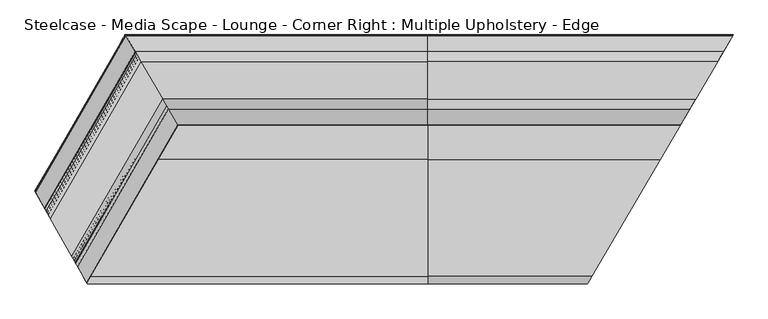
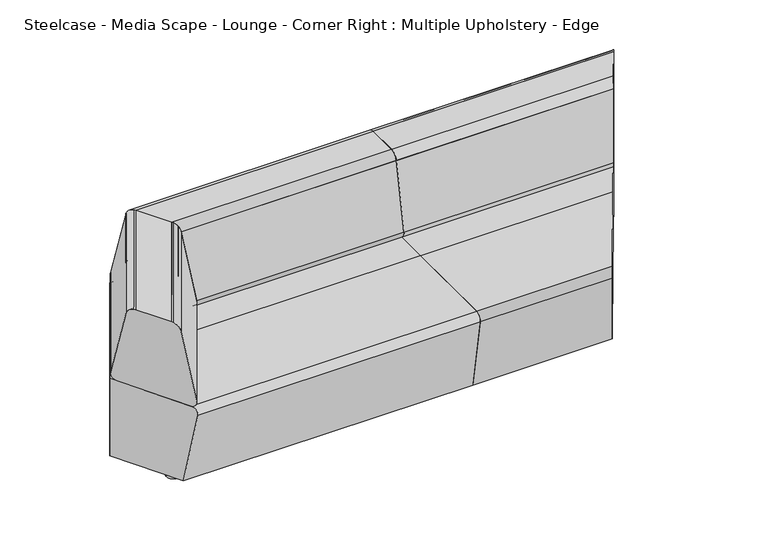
"""IFC4 building model written with IfcOpenShell, lengths in millimetres: furniture geometry, Steelcase - Media Scape - Lounge - Corner Right : Multiple Upholstery - Edge."""

from ifc_helpers import new_model, si_unit, point, frame, origin, place, context, project, spatial, polyline, circle_curve, ellipse_curve, trimmed, source, transform, mapped, element, save
from ifc_brep_helpers import plane_surface, cylinder_surface, revolved_surface, advanced_brep


def steelcase_media_scape_lounge_corner_right_multiple_61df472c(model_context):
    return source(origin(), model_context, "Body", "AdvancedBrep", [
        advanced_brep(
        [(-532.4537919, 416.9525328, 404.4443065), (-532.4537919, 25.4465658, 404.4443065), (-532.4537919, 0.4050887, 374.7917281), (-532.4537919, 51.3770305, 74.6414242), (-532.4537919, 416.9525328, 74.6414242), (-532.4537919, 782.5280351, 74.6414242), (-532.4537919, 833.4999769, 374.7917281), (-532.4537919, 808.4584998, 404.4443065), (-1785.0534928, 416.9525328, 404.4443065), (-1845.5788132, 311.9657445, 404.4443065), (-1684.4068668, 25.4465658, 404.4443065), (-1670.3206069, 0.4050887, 374.7917281), (-1698.9931974, 51.3770305, 74.6414242), (-1845.5788132, 311.9657445, 74.6414242), (-1785.0534928, 416.9525328, 74.6414242), (-1574.2976943, 782.5280351, 74.6414242), (-1544.9121577, 833.4999769, 374.7917281), (-1559.3486735, 808.4584998, 404.4443065)],
        [
            (0, 1),
            (1, 2, circle_curve(frame((-532.4537919, 25.4465658, 379.0443065), z_axis=(1.0, 0.0, 0.0), x_axis=(0.0, -1.0, 0.0)), 25.4)),
            (2, 3),
            (3, 4),
            (4, 5),
            (5, 6),
            (6, 7, circle_curve(frame((-532.4537919, 808.4584998, 379.0443065), z_axis=(1.0, 0.0, 0.0), x_axis=(0.0, 1.0, 0.0)), 25.4)),
            (7, 0),
            (0, 8),
            (8, 9),
            (9, 10),
            (10, 1),
            (10, 11, ellipse_curve(frame((-1684.4068668, 25.4465658, 379.0443065), z_axis=(0.8715691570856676, 0.49027258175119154, 0.0), x_axis=(0.4902725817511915, -0.8715691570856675, 0.0)), 29.1428394, 25.4)),
            (11, 2),
            (11, 12),
            (12, 3),
            (12, 13),
            (13, 14),
            (14, 4),
            (14, 15),
            (15, 5),
            (15, 16),
            (16, 6),
            (16, 17, ellipse_curve(frame((-1559.3486735, 808.4584998, 379.0443065), z_axis=(0.8663426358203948, -0.49945013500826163, 0.0), x_axis=(0.4994501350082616, 0.8663426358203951, 0.0)), 29.318654, 25.4)),
            (17, 7),
            (17, 8),
            (13, 9),
        ],
        [
            plane_surface(frame((-532.4537919, -57.5722485, 404.4443065), z_axis=(1.0, 0.0, 0.0), x_axis=(0.0, -1.0, 0.0))),
            plane_surface(frame((-532.4537919, 416.9525328, 404.4443065), z_axis=(0.0, 0.0, 1.0), x_axis=(-1.0, 0.0, 0.0))),
            cylinder_surface(frame((-1864.4893496, 25.4465658, 379.0443065), z_axis=(1.0, 0.0, 0.0), x_axis=(0.0, -1.0, 0.0)), 25.4),
            plane_surface(frame((-532.4537919, 0.4050887, 374.7917281), z_axis=(0.0, -0.9858849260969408, -0.16742434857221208), x_axis=(-1.0, 0.0, 0.0))),
            plane_surface(frame((-532.4537919, 51.3770305, 74.6414242), z_axis=(0.0, 0.0, -1.0), x_axis=(-1.0, 0.0, 0.0))),
            plane_surface(frame((-532.4537919, 416.9525328, 74.6414242), z_axis=(0.0, 0.0, -1.0), x_axis=(-1.0, 0.0, 0.0))),
            plane_surface(frame((-532.4537919, 782.5280351, 74.6414242), z_axis=(0.0, 0.9858849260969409, -0.1674243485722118), x_axis=(-1.0, 0.0, 0.0))),
            cylinder_surface(frame((-1864.4893496, 808.4584998, 379.0443065), z_axis=(1.0, 0.0, 0.0), x_axis=(0.0, 1.0, 0.0)), 25.4),
            plane_surface(frame((-532.4537919, 808.4584998, 404.4443065), z_axis=(0.0, 0.0, 1.0), x_axis=(-1.0, 0.0, 0.0))),
            plane_surface(frame((-1845.5788132, 311.9657445, 1254.4761924), z_axis=(-0.8663426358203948, 0.49945013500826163, 0.0), x_axis=(0.0, 0.0, -1.0))),
            plane_surface(frame((-1651.6684478, -32.7532953, 1254.4761924), z_axis=(-0.8715691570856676, -0.49027258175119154, 0.0), x_axis=(0.0, 0.0, -1.0))),
        ],
        [
            (0, [[1, 2, 3, 4, 5, 6, 7, 8]]),
            (1, [[-1, 9, 10, 11, 12]]),
            (2, [[-2, -12, 13, 14]]),
            (3, [[-3, -14, 15, 16]]),
            (4, [[-4, -16, 17, 18, 19]]),
            (5, [[-5, -19, 20, 21]]),
            (6, [[-6, -21, 22, 23]]),
            (7, [[-7, -23, 24, 25]]),
            (8, [[-8, -25, 26, -9]]),
            (9, [[27, -10, -26, -24, -22, -20, -18]]),
            (10, [[-27, -17, -15, -13, -11]]),
        ],
    ),
        advanced_brep(
        [(-1491.2979737, 744.6053565, 735.1171206), (-1510.6041375, 778.0459957, 707.6422134), (-1812.8470169, 253.7776565, 707.6422134), (-1793.7915094, 219.9022306, 735.1171206), (-1541.7100977, 831.9253268, 434.7626426), (-1843.5491212, 308.3575131, 434.7626426), (-1527.3179704, 806.9964005, 404.4443065), (-1829.3438503, 283.1044672, 404.4443065), (-1382.7665293, 556.6156083, 404.4443065), (-1686.6691539, 29.468287, 404.4443065), (-1368.3744021, 531.686682, 434.7626426), (-1672.4638829, 4.2152411, 434.7626426), (-1399.4803623, 585.5660131, 707.6422134), (-1703.1659873, 58.7950977, 707.6422134), (-1418.7865261, 619.0066524, 735.1171206), (-1722.2214947, 92.6705237, 735.1171206)],
        [
            (0, 1, ellipse_curve(frame((-1491.2979737, 744.6053565, 701.0445646), z_axis=(-0.8660343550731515, -0.499984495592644, 0.0), x_axis=(0.4999844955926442, -0.8660343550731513, 0.0)), 39.3584391, 34.0725559)),
            (1, 2),
            (2, 3, ellipse_curve(frame((-1793.7915094, 219.9022306, 701.0445646), z_axis=(0.8715691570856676, 0.49027258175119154, 0.0), x_axis=(0.4902725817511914, -0.8715691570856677, 0.0)), 39.6169766, 34.0725559)),
            (3, 0),
            (1, 4),
            (4, 5),
            (5, 2),
            (4, 6, ellipse_curve(frame((-1527.3179704, 806.9964005, 429.8443065), z_axis=(-0.8660343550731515, -0.499984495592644, 0.0), x_axis=(0.4999844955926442, -0.8660343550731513, 0.0)), 29.3404568, 25.4)),
            (6, 7),
            (7, 5, ellipse_curve(frame((-1829.3438503, 283.1044672, 429.8443065), z_axis=(0.8715691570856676, 0.49027258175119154, 0.0), x_axis=(0.4902725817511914, -0.8715691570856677, 0.0)), 29.5331882, 25.4)),
            (6, 8),
            (8, 9),
            (9, 7),
            (8, 10, ellipse_curve(frame((-1382.7665293, 556.6156083, 429.8443065), z_axis=(-0.8660343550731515, -0.499984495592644, 0.0), x_axis=(0.49998449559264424, -0.8660343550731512, 0.0)), 29.3404568, 25.4)),
            (10, 11),
            (11, 9, ellipse_curve(frame((-1686.6691539, 29.468287, 429.8443065), z_axis=(0.8715691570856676, 0.49027258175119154, 0.0), x_axis=(0.4902725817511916, -0.8715691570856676, 0.0)), 29.5331882, 25.4)),
            (10, 12),
            (12, 13),
            (13, 11),
            (12, 14, ellipse_curve(frame((-1418.7865261, 619.0066524, 701.0445646), z_axis=(-0.8660343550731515, -0.499984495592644, 0.0), x_axis=(0.49998449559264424, -0.8660343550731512, 0.0)), 39.3584391, 34.0725559)),
            (14, 15),
            (15, 13, ellipse_curve(frame((-1722.2214947, 92.6705237, 701.0445646), z_axis=(0.8715691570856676, 0.49027258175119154, 0.0), x_axis=(0.4902725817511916, -0.8715691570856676, 0.0)), 39.6169766, 34.0725559)),
            (14, 0),
            (3, 15),
        ],
        [
            cylinder_surface(frame((-1436.6538007, 839.3907486, 701.0445646), z_axis=(-0.49945013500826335, -0.8663426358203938, 0.0), x_axis=(-0.8663426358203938, 0.49945013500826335, 0.0)), 34.0725559),
            plane_surface(frame((-1896.9387657, 107.9127099, 707.6422134), z_axis=(-0.8499458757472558, 0.4899973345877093, 0.193635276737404), x_axis=(0.4994501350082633, 0.8663426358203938, 0.0))),
            cylinder_surface(frame((-1490.6848829, 870.5398923, 429.8443065), z_axis=(-0.49945013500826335, -0.8663426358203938, 0.0), x_axis=(-0.8663426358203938, 0.49945013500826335, 0.0)), 25.4),
            plane_surface(frame((-1922.0100195, 122.366392, 404.4443065), z_axis=(0.0, 0.0, -1.0), x_axis=(0.4994501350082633, 0.8663426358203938, 0.0))),
            cylinder_surface(frame((-1273.8533586, 745.5356162, 429.8443065), z_axis=(-0.4994501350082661, -0.8663426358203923, 0.0), x_axis=(0.8663426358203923, -0.4994501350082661, 0.0)), 25.4),
            plane_surface(frame((-1683.5898699, -15.0838164, 434.7626426), z_axis=(0.849945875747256, -0.4899973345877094, 0.19363527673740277), x_axis=(0.4994501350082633, 0.8663426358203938, 0.0))),
            cylinder_surface(frame((-1327.8844408, 776.6847599, 701.0445646), z_axis=(-0.4994501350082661, -0.8663426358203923, 0.0), x_axis=(0.8663426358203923, -0.4994501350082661, 0.0)), 34.0725559),
            plane_surface(frame((-1759.2095774, 28.5112596, 735.1171206), z_axis=(0.0, 0.0, 1.0), x_axis=(0.4994501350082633, 0.8663426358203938, 0.0))),
            plane_surface(frame((-1578.9048197, 896.3511388, 783.4745435), z_axis=(0.8660343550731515, 0.499984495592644, 0.0), x_axis=(0.0, 0.0, -1.0))),
            plane_surface(frame((-1651.6684478, -32.7532953, 1254.4761924), z_axis=(-0.8715691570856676, -0.49027258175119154, 0.0), x_axis=(0.0, 0.0, -1.0))),
        ],
        [
            (0, [[1, 2, 3, 4]]),
            (1, [[5, 6, 7, -2]]),
            (2, [[8, 9, 10, -6]]),
            (3, [[11, 12, 13, -9]]),
            (4, [[14, 15, 16, -12]]),
            (5, [[17, 18, 19, -15]]),
            (6, [[20, 21, 22, -18]]),
            (7, [[23, -4, 24, -21]]),
            (8, [[-1, -23, -20, -17, -14, -11, -8, -5]]),
            (9, [[-3, -7, -10, -13, -16, -19, -22, -24]]),
        ],
    ),
        advanced_brep(
        [(-1491.4185476, 744.8142053, 735.3711206), (-1510.7247114, 778.2548445, 707.8962134), (-1812.9660253, 253.9892207, 707.8962134), (-1793.9105179, 220.1137947, 735.3711206), (-1399.3597883, 585.3571644, 707.8962134), (-1703.0469788, 58.5835335, 707.8962134), (-1418.6659522, 618.7978036, 735.3711206), (-1722.1024862, 92.4589595, 735.3711206)],
        [
            (0, 1, ellipse_curve(frame((-1491.4185476, 744.8142053, 701.2985646), z_axis=(-0.8660343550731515, -0.499984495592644, 0.0), x_axis=(0.4999844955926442, -0.8660343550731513, 0.0)), 39.3584391, 34.0725559)),
            (1, 2),
            (2, 3, ellipse_curve(frame((-1793.9105179, 220.1137947, 701.2985646), z_axis=(0.8715691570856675, 0.4902725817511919, 0.0), x_axis=(0.4902725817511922, -0.8715691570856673, 0.0)), 39.6169766, 34.0725559)),
            (3, 0),
            (1, 4),
            (4, 5),
            (5, 2),
            (4, 6, ellipse_curve(frame((-1418.6659522, 618.7978036, 701.2985646), z_axis=(-0.8660343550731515, -0.499984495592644, 0.0), x_axis=(0.49998449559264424, -0.8660343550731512, 0.0)), 39.3584391, 34.0725559)),
            (6, 7),
            (7, 5, ellipse_curve(frame((-1722.1024862, 92.4589595, 701.2985646), z_axis=(0.8715691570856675, 0.4902725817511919, 0.0), x_axis=(0.49027258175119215, -0.8715691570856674, 0.0)), 39.6169766, 34.0725559)),
            (6, 0),
            (3, 7),
        ],
        [
            cylinder_surface(frame((-1436.8346652, 839.4950177, 701.2985646), z_axis=(-0.49945013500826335, -0.8663426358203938, 0.0), x_axis=(-0.8663426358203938, 0.49945013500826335, 0.0)), 34.0725559),
            plane_surface(frame((-1897.1196302, 108.016979, 707.8962134), z_axis=(0.0, 0.0, -1.0000000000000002), x_axis=(0.4994501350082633, 0.866342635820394, 0.0))),
            cylinder_surface(frame((-1327.7035763, 776.5804908, 701.2985646), z_axis=(-0.4994501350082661, -0.8663426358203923, 0.0), x_axis=(0.8663426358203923, -0.4994501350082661, 0.0)), 34.0725559),
            plane_surface(frame((-1759.0287129, 28.4069905, 735.3711206), z_axis=(0.0, 0.0, 1.0000000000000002), x_axis=(0.4994501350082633, 0.866342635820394, 0.0))),
            plane_surface(frame((-1578.9048197, 896.3511388, 783.4745435), z_axis=(0.8660343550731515, 0.499984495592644, 0.0), x_axis=(0.0, 0.0, -1.0))),
            plane_surface(frame((-1651.6684478, -32.7532953, 1757.5529843), z_axis=(-0.8715691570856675, -0.4902725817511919, 0.0), x_axis=(0.0, 0.0, -1.0))),
        ],
        [
            (0, [[1, 2, 3, 4]]),
            (1, [[5, 6, 7, -2]]),
            (2, [[8, 9, 10, -6]]),
            (3, [[11, -4, 12, -9]]),
            (4, [[-1, -11, -8, -5]]),
            (5, [[-3, -7, -10, -12]]),
        ],
    ),
        advanced_brep(
        [(-532.4537919, 744.8271599, 735.3711206), (-532.4537919, 778.2548445, 707.8962134), (-532.4537919, 585.4318912, 707.8962134), (-532.4537919, 618.8595758, 735.3711206), (361.4891213, 618.8595758, 735.3711206), (435.0694828, 744.8271599, 735.3711206), (341.9632954, 585.4318912, 707.8962134), (454.5953087, 778.2548445, 707.8962134)],
        [
            (0, 1, circle_curve(frame((-532.4537919, 744.8271599, 701.2985646), z_axis=(-1.0, 0.0, 0.0), x_axis=(0.0, 1.0, 0.0)), 34.0725559)),
            (1, 2),
            (2, 3, circle_curve(frame((-532.4537919, 618.8595758, 701.2985646), z_axis=(-1.0, 0.0, 0.0), x_axis=(0.0, -1.0, 0.0)), 34.0725559)),
            (3, 0),
            (3, 4),
            (4, 5),
            (5, 0),
            (2, 6),
            (6, 4, ellipse_curve(frame((361.4891213, 618.8595758, 701.2985646), z_axis=(-0.8634825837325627, 0.5043786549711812, 0.0), x_axis=(0.5043786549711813, 0.8634825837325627, 0.0)), 39.4594594, 34.0725559)),
            (1, 7),
            (7, 6),
            (5, 7, ellipse_curve(frame((435.0694828, 744.8271599, 701.2985646), z_axis=(-0.8634825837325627, 0.5043786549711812, 0.0), x_axis=(0.5043786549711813, 0.8634825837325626, 0.0)), 39.4594594, 34.0725559)),
        ],
        [
            plane_surface(frame((-532.4537919, 567.2050656, 735.3711206), z_axis=(-1.0, 0.0, 0.0), x_axis=(0.0, 1.0, 0.0))),
            plane_surface(frame((494.2685786, 744.8271599, 735.3711206), z_axis=(0.0, 0.0, 1.0), x_axis=(-1.0, 0.0, 0.0))),
            cylinder_surface(frame((-532.4537919, 618.8595758, 701.2985646), z_axis=(1.0, 0.0, 0.0), x_axis=(0.0, -1.0, 0.0)), 34.0725559),
            plane_surface(frame((494.2685786, 585.4318912, 707.8962134), z_axis=(0.0, 0.0, -1.0), x_axis=(-1.0, 0.0, 0.0))),
            cylinder_surface(frame((-532.4537919, 744.8271599, 701.2985646), z_axis=(1.0, 0.0, 0.0), x_axis=(0.0, 1.0, 0.0)), 34.0725559),
            plane_surface(frame((501.8901158, 859.2222721, 1408.6655234), z_axis=(0.8634825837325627, -0.5043786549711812, 0.0), x_axis=(0.0, 0.0, -1.0))),
        ],
        [
            (0, [[1, 2, 3, 4]]),
            (1, [[-4, 5, 6, 7]]),
            (2, [[-3, 8, 9, -5]]),
            (3, [[-2, 10, 11, -8]]),
            (4, [[-1, -7, 12, -10]]),
            (5, [[-6, -9, -11, -12]]),
        ],
    ),
        advanced_brep(
        [(-532.4537919, 744.618392, 735.1171206), (-532.4537919, 778.0460766, 707.6422134), (-532.4537919, 831.9045354, 434.7626426), (-532.4537919, 806.9852663, 404.4443065), (-532.4537919, 556.7014693, 404.4443065), (-532.4537919, 531.7822003, 434.7626426), (-532.4537919, 585.640659, 707.6422134), (-532.4537919, 619.0683436, 735.1171206), (361.6110671, 619.0683436, 735.1171206), (434.947537, 744.618392, 735.1171206), (342.0852412, 585.640659, 707.6422134), (310.6253629, 531.7822003, 434.7626426), (325.1812412, 556.7014693, 404.4443065), (471.3773629, 806.9852663, 404.4443065), (485.9332412, 831.9045354, 434.7626426), (454.4733629, 778.0460766, 707.6422134)],
        [
            (0, 1, circle_curve(frame((-532.4537919, 744.618392, 701.0445646), z_axis=(-1.0, 0.0, 0.0), x_axis=(0.0, 1.0, 0.0)), 34.0725559)),
            (1, 2),
            (2, 3, circle_curve(frame((-532.4537919, 806.9852663, 429.8443065), z_axis=(-1.0, 0.0, 0.0), x_axis=(0.0, 1.0, 0.0)), 25.4)),
            (3, 4),
            (4, 5, circle_curve(frame((-532.4537919, 556.7014693, 429.8443065), z_axis=(-1.0, 0.0, 0.0), x_axis=(0.0, -1.0, 0.0)), 25.4)),
            (5, 6),
            (6, 7, circle_curve(frame((-532.4537919, 619.0683436, 701.0445646), z_axis=(-1.0, 0.0, 0.0), x_axis=(0.0, -1.0, 0.0)), 34.0725559)),
            (7, 0),
            (7, 8),
            (8, 9),
            (9, 0),
            (6, 10),
            (10, 8, ellipse_curve(frame((361.6110671, 619.0683436, 701.0445646), z_axis=(-0.8634825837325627, 0.5043786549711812, 0.0), x_axis=(0.5043786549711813, 0.8634825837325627, 0.0)), 39.4594594, 34.0725559)),
            (5, 11),
            (11, 10),
            (4, 12),
            (12, 11, ellipse_curve(frame((325.1812412, 556.7014693, 429.8443065), z_axis=(-0.8634825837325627, 0.5043786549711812, 0.0), x_axis=(0.5043786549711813, 0.8634825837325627, 0.0)), 29.4157641, 25.4)),
            (3, 13),
            (13, 12),
            (2, 14),
            (14, 13, ellipse_curve(frame((471.3773629, 806.9852663, 429.8443065), z_axis=(-0.8634825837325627, 0.5043786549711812, 0.0), x_axis=(0.5043786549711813, 0.8634825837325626, 0.0)), 29.4157641, 25.4)),
            (1, 15),
            (15, 14),
            (9, 15, ellipse_curve(frame((434.947537, 744.618392, 701.0445646), z_axis=(-0.8634825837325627, 0.5043786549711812, 0.0), x_axis=(0.5043786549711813, 0.8634825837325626, 0.0)), 39.4594594, 34.0725559)),
        ],
        [
            plane_surface(frame((-532.4537919, 567.2050656, 735.1171206), z_axis=(-1.0, 0.0, 0.0), x_axis=(0.0, 1.0, 0.0))),
            plane_surface(frame((494.2685786, 744.618392, 735.1171206), z_axis=(0.0, 0.0, 1.0), x_axis=(-1.0, 0.0, 0.0))),
            cylinder_surface(frame((-532.4537919, 619.0683436, 701.0445646), z_axis=(1.0, 0.0, 0.0), x_axis=(0.0, -1.0, 0.0)), 34.0725559),
            plane_surface(frame((494.2685786, 585.640659, 707.6422134), z_axis=(0.0, -0.9810735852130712, 0.19363527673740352), x_axis=(-1.0, 0.0, 0.0))),
            cylinder_surface(frame((-532.4537919, 556.7014693, 429.8443065), z_axis=(1.0, 0.0, 0.0), x_axis=(0.0, -1.0, 0.0)), 25.4),
            plane_surface(frame((494.2685786, 556.7014693, 404.4443065), z_axis=(0.0, 0.0, -1.0), x_axis=(-1.0, 0.0, 0.0))),
            cylinder_surface(frame((-532.4537919, 806.9852663, 429.8443065), z_axis=(1.0, 0.0, 0.0), x_axis=(0.0, 1.0, 0.0)), 25.4),
            plane_surface(frame((494.2685786, 831.9045354, 434.7626426), z_axis=(0.0, 0.9810735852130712, 0.19363527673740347), x_axis=(-1.0, 0.0, 0.0))),
            cylinder_surface(frame((-532.4537919, 744.618392, 701.0445646), z_axis=(1.0, 0.0, 0.0), x_axis=(0.0, 1.0, 0.0)), 34.0725559),
            plane_surface(frame((501.8901158, 859.2222721, 775.7777302), z_axis=(0.8634825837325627, -0.5043786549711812, 0.0), x_axis=(0.0, 0.0, -1.0))),
        ],
        [
            (0, [[1, 2, 3, 4, 5, 6, 7, 8]]),
            (1, [[-8, 9, 10, 11]]),
            (2, [[-7, 12, 13, -9]]),
            (3, [[-6, 14, 15, -12]]),
            (4, [[-5, 16, 17, -14]]),
            (5, [[-4, 18, 19, -16]]),
            (6, [[-3, 20, 21, -18]]),
            (7, [[-2, 22, 23, -20]]),
            (8, [[-1, -11, 24, -22]]),
            (9, [[-10, -13, -15, -17, -19, -21, -23, -24]]),
        ],
    ),
        advanced_brep(
        [(-532.4537919, 416.9525328, 404.4443065), (-532.4537919, 808.4584998, 404.4443065), (-532.4537919, 833.4999769, 374.7917281), (-532.4537919, 782.5280351, 74.6414242), (-532.4537919, 416.9525328, 74.6414242), (-532.4537919, 51.3770305, 74.6414242), (-532.4537919, 0.4050887, 374.7917281), (-532.4537919, 25.4465658, 404.4443065), (243.5508969, 416.9525328, 404.4443065), (472.2379101, 808.4584998, 404.4443065), (486.8651727, 833.4999769, 374.7917281), (457.0913708, 782.5280351, 74.6414242), (243.5508969, 416.9525328, 74.6414242), (30.0104229, 51.3770305, 74.6414242), (0.236621, 0.4050887, 374.7917281), (14.8638836, 25.4465658, 404.4443065)],
        [
            (0, 1),
            (1, 2, circle_curve(frame((-532.4537919, 808.4584998, 379.0443065), z_axis=(-1.0, 0.0, 0.0), x_axis=(0.0, 1.0, 0.0)), 25.4)),
            (2, 3),
            (3, 4),
            (4, 5),
            (5, 6),
            (6, 7, circle_curve(frame((-532.4537919, 25.4465658, 379.0443065), z_axis=(-1.0, 0.0, 0.0), x_axis=(0.0, -1.0, 0.0)), 25.4)),
            (7, 0),
            (0, 8),
            (8, 9),
            (9, 1),
            (9, 10, ellipse_curve(frame((472.2379101, 808.4584998, 379.0443065), z_axis=(-0.8634825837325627, 0.5043786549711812, 0.0), x_axis=(-0.5043786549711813, -0.8634825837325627, 0.0)), 29.4157641, 25.4)),
            (10, 2),
            (10, 11),
            (11, 3),
            (11, 12),
            (12, 4),
            (12, 13),
            (13, 5),
            (13, 14),
            (14, 6),
            (14, 15, ellipse_curve(frame((14.8638836, 25.4465658, 379.0443065), z_axis=(-0.8634825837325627, 0.5043786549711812, 0.0), x_axis=(-0.5043786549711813, -0.8634825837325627, 0.0)), 29.4157641, 25.4)),
            (15, 7),
            (15, 8),
        ],
        [
            plane_surface(frame((-532.4537919, 891.4773142, 404.4443065), z_axis=(-1.0, 0.0, 0.0), x_axis=(0.0, 1.0, 0.0))),
            plane_surface(frame((-532.4537919, 416.9525328, 404.4443065), z_axis=(0.0, 0.0, 1.0), x_axis=(1.0, 0.0, 0.0))),
            cylinder_surface(frame((497.7585178, 808.4584998, 379.0443065), z_axis=(-1.0, 0.0, 0.0), x_axis=(0.0, 1.0, 0.0)), 25.4),
            plane_surface(frame((-532.4537919, 833.4999769, 374.7917281), z_axis=(0.0, 0.9858849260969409, -0.1674243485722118), x_axis=(1.0, 0.0, 0.0))),
            plane_surface(frame((-532.4537919, 782.5280351, 74.6414242), z_axis=(0.0, 0.0, -1.0), x_axis=(1.0, 0.0, 0.0))),
            plane_surface(frame((-532.4537919, 416.9525328, 74.6414242), z_axis=(0.0, 0.0, -1.0), x_axis=(1.0, 0.0, 0.0))),
            plane_surface(frame((-532.4537919, 51.3770305, 74.6414242), z_axis=(0.0, -0.9858849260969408, -0.16742434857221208), x_axis=(1.0, 0.0, 0.0))),
            cylinder_surface(frame((497.7585178, 25.4465658, 379.0443065), z_axis=(-1.0, 0.0, 0.0), x_axis=(0.0, -1.0, 0.0)), 25.4),
            plane_surface(frame((-532.4537919, 25.4465658, 404.4443065), z_axis=(0.0, 0.0, 1.0), x_axis=(1.0, 0.0, 0.0))),
            plane_surface(frame((501.8901158, 859.2222721, 775.7777302), z_axis=(0.8634825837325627, -0.5043786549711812, 0.0), x_axis=(0.0, 0.0, -1.0))),
        ],
        [
            (0, [[1, 2, 3, 4, 5, 6, 7, 8]]),
            (1, [[-1, 9, 10, 11]]),
            (2, [[-2, -11, 12, 13]]),
            (3, [[-3, -13, 14, 15]]),
            (4, [[-4, -15, 16, 17]]),
            (5, [[-5, -17, 18, 19]]),
            (6, [[-6, -19, 20, 21]]),
            (7, [[-7, -21, 22, 23]]),
            (8, [[-8, -23, 24, -9]]),
            (9, [[-10, -24, -22, -20, -18, -16, -14, -12]]),
        ],
    ),
        advanced_brep(
        [(-532.4537919, 744.8271599, 735.3711206), (-532.4537919, 618.8595758, 735.3711206), (-532.4537919, 585.4318912, 707.8962134), (-532.4537919, 778.2548445, 707.8962134), (-1510.7247114, 778.2548445, 707.8962134), (-1491.4260266, 744.8271599, 735.3711206), (-1399.4029301, 585.4318912, 707.8962134), (-1418.7016149, 618.8595758, 735.3711206)],
        [
            (0, 1),
            (1, 2, circle_curve(frame((-532.4537919, 618.8595758, 701.2985646), z_axis=(1.0, 0.0, 0.0), x_axis=(0.0, -1.0, 0.0)), 34.0725559)),
            (2, 3),
            (3, 0, circle_curve(frame((-532.4537919, 744.8271599, 701.2985646), z_axis=(1.0, 0.0, 0.0), x_axis=(0.0, 1.0, 0.0)), 34.0725559)),
            (3, 4),
            (4, 5, ellipse_curve(frame((-1491.4260266, 744.8271599, 701.2985646), z_axis=(0.8660343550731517, 0.4999844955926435, 0.0), x_axis=(-0.4999844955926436, 0.8660343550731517, 0.0)), 39.343192, 34.0725559)),
            (5, 0),
            (2, 6),
            (6, 4),
            (1, 7),
            (7, 6, ellipse_curve(frame((-1418.7016149, 618.8595758, 701.2985646), z_axis=(0.8660343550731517, 0.4999844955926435, 0.0), x_axis=(-0.4999844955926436, 0.8660343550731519, 0.0)), 39.343192, 34.0725559)),
            (5, 7),
        ],
        [
            plane_surface(frame((-532.4537919, 778.8997158, 701.2985646), z_axis=(1.0, 0.0, 0.0), x_axis=(0.0, 0.0, 1.0))),
            cylinder_surface(frame((-532.4537919, 744.8271599, 701.2985646), z_axis=(-1.0, 0.0, 0.0), x_axis=(0.0, 1.0, 0.0)), 34.0725559),
            plane_surface(frame((-1559.1761623, 778.2548445, 707.8962134), z_axis=(0.0, 0.0, -1.0), x_axis=(1.0, 0.0, 0.0))),
            cylinder_surface(frame((-532.4537919, 618.8595758, 701.2985646), z_axis=(-1.0, 0.0, 0.0), x_axis=(0.0, -1.0, 0.0)), 34.0725559),
            plane_surface(frame((-1559.1761623, 618.8595758, 735.3711206), z_axis=(0.0, 0.0, 1.0), x_axis=(1.0, 0.0, 0.0))),
            plane_surface(frame((-1312.2130898, 434.4084138, 783.4745435), z_axis=(-0.8660343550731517, -0.4999844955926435, 0.0), x_axis=(0.0, 0.0, -1.0))),
        ],
        [
            (0, [[1, 2, 3, 4]]),
            (1, [[-4, 5, 6, 7]]),
            (2, [[-3, 8, 9, -5]]),
            (3, [[-2, 10, 11, -8]]),
            (4, [[-1, -7, 12, -10]]),
            (5, [[-6, -9, -11, -12]]),
        ],
    ),
        advanced_brep(
        [(-532.4537919, 744.618392, 735.1171206), (-532.4537919, 619.0683436, 735.1171206), (-532.4537919, 585.640659, 707.6422134), (-532.4537919, 531.7822003, 434.7626426), (-532.4537919, 556.7014693, 404.4443065), (-532.4537919, 806.9852663, 404.4443065), (-532.4537919, 831.9045354, 434.7626426), (-532.4537919, 778.0460766, 707.6422134), (-1510.6041842, 778.0460766, 707.6422134), (-1491.3054994, 744.618392, 735.1171206), (-1541.6980942, 831.9045354, 434.7626426), (-1527.3115423, 806.9852663, 404.4443065), (-1382.8160991, 556.7014693, 404.4443065), (-1368.4295472, 531.7822003, 434.7626426), (-1399.5234573, 585.640659, 707.6422134), (-1418.8221421, 619.0683436, 735.1171206)],
        [
            (0, 1),
            (1, 2, circle_curve(frame((-532.4537919, 619.0683436, 701.0445646), z_axis=(1.0, 0.0, 0.0), x_axis=(0.0, -1.0, 0.0)), 34.0725559)),
            (2, 3),
            (3, 4, circle_curve(frame((-532.4537919, 556.7014693, 429.8443065), z_axis=(1.0, 0.0, 0.0), x_axis=(0.0, -1.0, 0.0)), 25.4)),
            (4, 5),
            (5, 6, circle_curve(frame((-532.4537919, 806.9852663, 429.8443065), z_axis=(1.0, 0.0, 0.0), x_axis=(0.0, 1.0, 0.0)), 25.4)),
            (6, 7),
            (7, 0, circle_curve(frame((-532.4537919, 744.618392, 701.0445646), z_axis=(1.0, 0.0, 0.0), x_axis=(0.0, 1.0, 0.0)), 34.0725559)),
            (7, 8),
            (8, 9, ellipse_curve(frame((-1491.3054994, 744.618392, 701.0445646), z_axis=(0.8660343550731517, 0.4999844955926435, 0.0), x_axis=(-0.4999844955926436, 0.8660343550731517, 0.0)), 39.343192, 34.0725559)),
            (9, 0),
            (6, 10),
            (10, 8),
            (5, 11),
            (11, 10, ellipse_curve(frame((-1527.3115423, 806.9852663, 429.8443065), z_axis=(0.8660343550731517, 0.4999844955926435, 0.0), x_axis=(-0.4999844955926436, 0.8660343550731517, 0.0)), 29.3290905, 25.4)),
            (4, 12),
            (12, 11),
            (3, 13),
            (13, 12, ellipse_curve(frame((-1382.8160991, 556.7014693, 429.8443065), z_axis=(0.8660343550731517, 0.4999844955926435, 0.0), x_axis=(-0.4999844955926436, 0.8660343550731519, 0.0)), 29.3290905, 25.4)),
            (2, 14),
            (14, 13),
            (1, 15),
            (15, 14, ellipse_curve(frame((-1418.8221421, 619.0683436, 701.0445646), z_axis=(0.8660343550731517, 0.4999844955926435, 0.0), x_axis=(-0.4999844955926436, 0.8660343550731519, 0.0)), 39.343192, 34.0725559)),
            (9, 15),
        ],
        [
            plane_surface(frame((-532.4537919, 778.690948, 701.0445646), z_axis=(1.0, 0.0, 0.0), x_axis=(0.0, 0.0, 1.0))),
            cylinder_surface(frame((-532.4537919, 744.618392, 701.0445646), z_axis=(-1.0, 0.0, 0.0), x_axis=(0.0, 1.0, 0.0)), 34.0725559),
            plane_surface(frame((-1559.1761623, 778.0460766, 707.6422134), z_axis=(0.0, 0.9810735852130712, 0.19363527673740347), x_axis=(1.0, 0.0, 0.0))),
            cylinder_surface(frame((-532.4537919, 806.9852663, 429.8443065), z_axis=(-1.0, 0.0, 0.0), x_axis=(0.0, 1.0, 0.0)), 25.4),
            plane_surface(frame((-1559.1761623, 806.9852663, 404.4443065), z_axis=(0.0, 0.0, -1.0), x_axis=(1.0, 0.0, 0.0))),
            cylinder_surface(frame((-532.4537919, 556.7014693, 429.8443065), z_axis=(-1.0, 0.0, 0.0), x_axis=(0.0, -1.0, 0.0)), 25.4),
            plane_surface(frame((-1559.1761623, 531.7822003, 434.7626426), z_axis=(0.0, -0.9810735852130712, 0.19363527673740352), x_axis=(1.0, 0.0, 0.0))),
            cylinder_surface(frame((-532.4537919, 619.0683436, 701.0445646), z_axis=(-1.0, 0.0, 0.0), x_axis=(0.0, -1.0, 0.0)), 34.0725559),
            plane_surface(frame((-1559.1761623, 619.0683436, 735.1171206), z_axis=(0.0, 0.0, 1.0), x_axis=(1.0, 0.0, 0.0))),
            plane_surface(frame((-1312.2130898, 434.4084138, 783.4745435), z_axis=(-0.8660343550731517, -0.4999844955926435, 0.0), x_axis=(0.0, 0.0, -1.0))),
        ],
        [
            (0, [[1, 2, 3, 4, 5, 6, 7, 8]]),
            (1, [[-8, 9, 10, 11]]),
            (2, [[-7, 12, 13, -9]]),
            (3, [[-6, 14, 15, -12]]),
            (4, [[-5, 16, 17, -14]]),
            (5, [[-4, 18, 19, -16]]),
            (6, [[-3, 20, 21, -18]]),
            (7, [[-2, 22, 23, -20]]),
            (8, [[-1, -11, 24, -22]]),
            (9, [[-10, -13, -15, -17, -19, -21, -23, -24]]),
        ],
    ),
        advanced_brep(
        [(-1452.5247137, 673.0124186, 74.1561731), (-1428.7377935, 673.0124186, 74.1561731), (-1476.3116339, 673.0124186, 74.1561731), (-1478.578356, 673.0124186, 0.0), (-1426.4710714, 673.0124186, 0.0), (-1452.5247137, 673.0124186, 0.0), (-1478.578356, 673.0124186, 6.3788302), (-1426.4710714, 673.0124186, 6.3788302), (-1462.0497137, 673.0124186, 6.3788302), (-1442.9997137, 673.0124186, 6.3788302), (-1462.0497137, 673.0124186, 17.057519), (-1442.9997137, 673.0124186, 17.057519), (-1473.47983, 673.0124186, 17.057519), (-1431.5695974, 673.0124186, 17.057519)],
        [
            (0, 1),
            (1, 2, circle_curve(frame((-1452.5247137, 673.0124186, 74.1561731), z_axis=(0.0, 0.0, 1.0), x_axis=(1.0, 0.0, 0.0)), 23.7869202)),
            (2, 0),
            (2, 1, circle_curve(frame((-1452.5247137, 673.0124186, 74.1561731), z_axis=(0.0, 0.0, 1.0), x_axis=(1.0, 0.0, 0.0)), 23.7869202)),
            (3, 4, circle_curve(frame((-1452.5247137, 673.0124186, 0.0), z_axis=(0.0, 0.0, -1.0), x_axis=(1.0, 0.0, 0.0)), 26.0536423)),
            (4, 5),
            (5, 3),
            (4, 3, circle_curve(frame((-1452.5247137, 673.0124186, 0.0), z_axis=(0.0, 0.0, -1.0), x_axis=(1.0, 0.0, 0.0)), 26.0536423)),
            (6, 7, circle_curve(frame((-1452.5247137, 673.0124186, 6.3788302), z_axis=(0.0, 0.0, -1.0), x_axis=(1.0, 0.0, 0.0)), 26.0536423)),
            (7, 4, circle_curve(frame((-1426.4710714, 673.0124186, 3.1894151), z_axis=(0.0, 1.0, 0.0), x_axis=(1.0, 0.0, 0.0)), 3.1894151)),
            (3, 6, circle_curve(frame((-1478.578356, 673.0124186, 3.1894151), z_axis=(0.0, 1.0, 0.0), x_axis=(-1.0, 0.0, 0.0)), 3.1894151)),
            (7, 6, circle_curve(frame((-1452.5247137, 673.0124186, 6.3788302), z_axis=(0.0, 0.0, -1.0), x_axis=(1.0, 0.0, 0.0)), 26.0536423)),
            (8, 9, circle_curve(frame((-1452.5247137, 673.0124186, 6.3788302), z_axis=(0.0, 0.0, -1.0), x_axis=(1.0, 0.0, 0.0)), 9.525)),
            (9, 7),
            (6, 8),
            (9, 8, circle_curve(frame((-1452.5247137, 673.0124186, 6.3788302), z_axis=(0.0, 0.0, -1.0), x_axis=(1.0, 0.0, 0.0)), 9.525)),
            (10, 11, circle_curve(frame((-1452.5247137, 673.0124186, 17.057519), z_axis=(0.0, 0.0, -1.0), x_axis=(1.0, 0.0, 0.0)), 9.525)),
            (11, 9),
            (8, 10),
            (11, 10, circle_curve(frame((-1452.5247137, 673.0124186, 17.057519), z_axis=(0.0, 0.0, -1.0), x_axis=(1.0, 0.0, 0.0)), 9.525)),
            (12, 13, circle_curve(frame((-1452.5247137, 673.0124186, 17.057519), z_axis=(0.0, 0.0, -1.0), x_axis=(1.0, 0.0, 0.0)), 20.9551163)),
            (13, 11),
            (10, 12),
            (13, 12, circle_curve(frame((-1452.5247137, 673.0124186, 17.057519), z_axis=(0.0, 0.0, -1.0), x_axis=(1.0, 0.0, 0.0)), 20.9551163)),
            (1, 13),
            (12, 2),
        ],
        [
            plane_surface(frame((-1452.5247137, 673.0124186, 74.1561731), z_axis=(0.0, 0.0, 1.0), x_axis=(1.0, 0.0, 0.0))),
            plane_surface(frame((-1452.5247137, 673.0124186, 0.0), z_axis=(0.0, 0.0, -1.0), x_axis=(1.0, 0.0, 0.0))),
            revolved_surface(trimmed(ellipse_curve(frame((-1426.4710714, 673.0124186, 3.1894151), z_axis=(0.0, -1.0, 0.0), x_axis=(1.0, 0.0, 0.0)), 3.1894151, 3.1894151), [point((-1426.4710714, 673.0124186, 0.0))], [point((-1426.4710714, 673.0124186, 6.3788302))], True, "CARTESIAN"), (-1452.5247137, 673.0124186, 61.4561731), (0.0, 0.0, 1.0)),
            plane_surface(frame((-1452.5247137, 673.0124186, 6.3788302), z_axis=(0.0, 0.0, 1.0), x_axis=(1.0, 0.0, 0.0))),
            cylinder_surface(frame((-1452.5247137, 673.0124186, 61.4561731), z_axis=(0.0, 0.0, 1.0), x_axis=(1.0, 0.0, 0.0)), 9.525),
            plane_surface(frame((-1452.5247137, 673.0124186, 17.057519), z_axis=(0.0, 0.0, -1.0), x_axis=(1.0, 0.0, 0.0))),
            revolved_surface(polyline([(-1431.5695974, 673.0124186, 17.057519), (-1428.7377935, 673.0124186, 74.1561731)]), (-1452.5247137, 673.0124186, 61.4561731), (0.0, 0.0, 1.0)),
        ],
        [
            (0, [[1, 2, 3]]),
            (0, [[-3, 4, -1]]),
            (1, [[5, 6, 7]]),
            (1, [[8, -7, -6]]),
            (2, [[9, 10, -5, 11]]),
            (2, [[12, -11, -8, -10]]),
            (3, [[13, 14, -9, 15]]),
            (3, [[16, -15, -12, -14]]),
            (4, [[17, 18, -13, 19]]),
            (4, [[20, -19, -16, -18]]),
            (5, [[21, 22, -17, 23]]),
            (5, [[24, -23, -20, -22]]),
            (6, [[-2, 25, -21, 26]]),
            (6, [[-4, -26, -24, -25]]),
        ],
    ),
        advanced_brep(
        [(-1656.2997742, 196.0324711, 74.1561731), (-1632.512854, 196.0324711, 74.1561731), (-1680.0866944, 196.0324711, 74.1561731), (-1682.3534165, 196.0324711, 0.0), (-1630.2461319, 196.0324711, 0.0), (-1656.2997742, 196.0324711, 0.0), (-1682.3534165, 196.0324711, 6.3788302), (-1630.2461319, 196.0324711, 6.3788302), (-1665.8247742, 196.0324711, 6.3788302), (-1646.7747742, 196.0324711, 6.3788302), (-1665.8247742, 196.0324711, 17.057519), (-1646.7747742, 196.0324711, 17.057519), (-1677.2548905, 196.0324711, 17.057519), (-1635.3446579, 196.0324711, 17.057519)],
        [
            (0, 1),
            (1, 2, circle_curve(frame((-1656.2997742, 196.0324711, 74.1561731), z_axis=(0.0, 0.0, 1.0), x_axis=(1.0, 0.0, 0.0)), 23.7869202)),
            (2, 0),
            (2, 1, circle_curve(frame((-1656.2997742, 196.0324711, 74.1561731), z_axis=(0.0, 0.0, 1.0), x_axis=(1.0, 0.0, 0.0)), 23.7869202)),
            (3, 4, circle_curve(frame((-1656.2997742, 196.0324711, 0.0), z_axis=(0.0, 0.0, -1.0), x_axis=(1.0, 0.0, 0.0)), 26.0536423)),
            (4, 5),
            (5, 3),
            (4, 3, circle_curve(frame((-1656.2997742, 196.0324711, 0.0), z_axis=(0.0, 0.0, -1.0), x_axis=(1.0, 0.0, 0.0)), 26.0536423)),
            (6, 7, circle_curve(frame((-1656.2997742, 196.0324711, 6.3788302), z_axis=(0.0, 0.0, -1.0), x_axis=(1.0, 0.0, 0.0)), 26.0536423)),
            (7, 4, circle_curve(frame((-1630.2461319, 196.0324711, 3.1894151), z_axis=(0.0, 1.0, 0.0), x_axis=(1.0, 0.0, 0.0)), 3.1894151)),
            (3, 6, circle_curve(frame((-1682.3534165, 196.0324711, 3.1894151), z_axis=(0.0, 1.0, 0.0), x_axis=(-1.0, 0.0, 0.0)), 3.1894151)),
            (7, 6, circle_curve(frame((-1656.2997742, 196.0324711, 6.3788302), z_axis=(0.0, 0.0, -1.0), x_axis=(1.0, 0.0, 0.0)), 26.0536423)),
            (8, 9, circle_curve(frame((-1656.2997742, 196.0324711, 6.3788302), z_axis=(0.0, 0.0, -1.0), x_axis=(1.0, 0.0, 0.0)), 9.525)),
            (9, 7),
            (6, 8),
            (9, 8, circle_curve(frame((-1656.2997742, 196.0324711, 6.3788302), z_axis=(0.0, 0.0, -1.0), x_axis=(1.0, 0.0, 0.0)), 9.525)),
            (10, 11, circle_curve(frame((-1656.2997742, 196.0324711, 17.057519), z_axis=(0.0, 0.0, -1.0), x_axis=(1.0, 0.0, 0.0)), 9.525)),
            (11, 9),
            (8, 10),
            (11, 10, circle_curve(frame((-1656.2997742, 196.0324711, 17.057519), z_axis=(0.0, 0.0, -1.0), x_axis=(1.0, 0.0, 0.0)), 9.525)),
            (12, 13, circle_curve(frame((-1656.2997742, 196.0324711, 17.057519), z_axis=(0.0, 0.0, -1.0), x_axis=(1.0, 0.0, 0.0)), 20.9551163)),
            (13, 11),
            (10, 12),
            (13, 12, circle_curve(frame((-1656.2997742, 196.0324711, 17.057519), z_axis=(0.0, 0.0, -1.0), x_axis=(1.0, 0.0, 0.0)), 20.9551163)),
            (1, 13),
            (12, 2),
        ],
        [
            plane_surface(frame((-1656.2997742, 196.0324711, 74.1561731), z_axis=(0.0, 0.0, 1.0), x_axis=(1.0, 0.0, 0.0))),
            plane_surface(frame((-1656.2997742, 196.0324711, 0.0), z_axis=(0.0, 0.0, -1.0), x_axis=(1.0, 0.0, 0.0))),
            revolved_surface(trimmed(ellipse_curve(frame((-1630.2461319, 196.0324711, 3.1894151), z_axis=(0.0, -1.0, 0.0), x_axis=(1.0, 0.0, 0.0)), 3.1894151, 3.1894151), [point((-1630.2461319, 196.0324711, 0.0))], [point((-1630.2461319, 196.0324711, 6.3788302))], True, "CARTESIAN"), (-1656.2997742, 196.0324711, 61.4561731), (0.0, 0.0, 1.0)),
            plane_surface(frame((-1656.2997742, 196.0324711, 6.3788302), z_axis=(0.0, 0.0, 1.0), x_axis=(1.0, 0.0, 0.0))),
            cylinder_surface(frame((-1656.2997742, 196.0324711, 61.4561731), z_axis=(0.0, 0.0, 1.0), x_axis=(1.0, 0.0, 0.0)), 9.525),
            plane_surface(frame((-1656.2997742, 196.0324711, 17.057519), z_axis=(0.0, 0.0, -1.0), x_axis=(1.0, 0.0, 0.0))),
            revolved_surface(polyline([(-1635.3446579, 196.0324711, 17.057519), (-1632.512854, 196.0324711, 74.1561731)]), (-1656.2997742, 196.0324711, 61.4561731), (0.0, 0.0, 1.0)),
        ],
        [
            (0, [[1, 2, 3]]),
            (0, [[-3, 4, -1]]),
            (1, [[5, 6, 7]]),
            (1, [[8, -7, -6]]),
            (2, [[9, 10, -5, 11]]),
            (2, [[12, -11, -8, -10]]),
            (3, [[13, 14, -9, 15]]),
            (3, [[16, -15, -12, -14]]),
            (4, [[17, 18, -13, 19]]),
            (4, [[20, -19, -16, -18]]),
            (5, [[21, 22, -17, 23]]),
            (5, [[24, -23, -20, -22]]),
            (6, [[-2, 25, -21, 26]]),
            (6, [[-4, -26, -24, -25]]),
        ],
    ),
        advanced_brep(
        [(-16.9051759, 195.9562575, 74.1561731), (6.8817443, 195.9562575, 74.1561731), (-40.692096, 195.9562575, 74.1561731), (-42.9588181, 195.9562575, 0.0), (9.1484664, 195.9562575, 0.0), (-16.9051759, 195.9562575, 0.0), (-42.9588181, 195.9562575, 6.3788302), (9.1484664, 195.9562575, 6.3788302), (-26.4301759, 195.9562575, 6.3788302), (-7.3801759, 195.9562575, 6.3788302), (-26.4301759, 195.9562575, 17.057519), (-7.3801759, 195.9562575, 17.057519), (-37.8602921, 195.9562575, 17.057519), (4.0499404, 195.9562575, 17.057519)],
        [
            (0, 1),
            (1, 2, circle_curve(frame((-16.9051759, 195.9562575, 74.1561731), z_axis=(0.0, 0.0, 1.0), x_axis=(1.0, 0.0, 0.0)), 23.7869202)),
            (2, 0),
            (2, 1, circle_curve(frame((-16.9051759, 195.9562575, 74.1561731), z_axis=(0.0, 0.0, 1.0), x_axis=(1.0, 0.0, 0.0)), 23.7869202)),
            (3, 4, circle_curve(frame((-16.9051759, 195.9562575, 0.0), z_axis=(0.0, 0.0, -1.0), x_axis=(1.0, 0.0, 0.0)), 26.0536423)),
            (4, 5),
            (5, 3),
            (4, 3, circle_curve(frame((-16.9051759, 195.9562575, 0.0), z_axis=(0.0, 0.0, -1.0), x_axis=(1.0, 0.0, 0.0)), 26.0536423)),
            (3, 6, circle_curve(frame((-42.9588181, 195.9562575, 3.1894151), z_axis=(0.0, 1.0, 0.0), x_axis=(-1.0, 0.0, 0.0)), 3.1894151)),
            (6, 7, circle_curve(frame((-16.9051759, 195.9562575, 6.3788302), z_axis=(0.0, 0.0, -1.0), x_axis=(1.0, 0.0, 0.0)), 26.0536423)),
            (7, 4, circle_curve(frame((9.1484664, 195.9562575, 3.1894151), z_axis=(0.0, 1.0, 0.0), x_axis=(1.0, 0.0, 0.0)), 3.1894151)),
            (7, 6, circle_curve(frame((-16.9051759, 195.9562575, 6.3788302), z_axis=(0.0, 0.0, -1.0), x_axis=(1.0, 0.0, 0.0)), 26.0536423)),
            (6, 8),
            (8, 9, circle_curve(frame((-16.9051759, 195.9562575, 6.3788302), z_axis=(0.0, 0.0, -1.0), x_axis=(1.0, 0.0, 0.0)), 9.525)),
            (9, 7),
            (9, 8, circle_curve(frame((-16.9051759, 195.9562575, 6.3788302), z_axis=(0.0, 0.0, -1.0), x_axis=(1.0, 0.0, 0.0)), 9.525)),
            (8, 10),
            (10, 11, circle_curve(frame((-16.9051759, 195.9562575, 17.057519), z_axis=(0.0, 0.0, -1.0), x_axis=(1.0, 0.0, 0.0)), 9.525)),
            (11, 9),
            (11, 10, circle_curve(frame((-16.9051759, 195.9562575, 17.057519), z_axis=(0.0, 0.0, -1.0), x_axis=(1.0, 0.0, 0.0)), 9.525)),
            (10, 12),
            (12, 13, circle_curve(frame((-16.9051759, 195.9562575, 17.057519), z_axis=(0.0, 0.0, -1.0), x_axis=(1.0, 0.0, 0.0)), 20.9551163)),
            (13, 11),
            (13, 12, circle_curve(frame((-16.9051759, 195.9562575, 17.057519), z_axis=(0.0, 0.0, -1.0), x_axis=(1.0, 0.0, 0.0)), 20.9551163)),
            (1, 13),
            (12, 2),
        ],
        [
            plane_surface(frame((-16.9051759, 195.9562575, 74.1561731), z_axis=(0.0, 0.0, 1.0), x_axis=(1.0, 0.0, 0.0))),
            plane_surface(frame((-16.9051759, 195.9562575, 0.0), z_axis=(0.0, 0.0, -1.0), x_axis=(1.0, 0.0, 0.0))),
            revolved_surface(trimmed(ellipse_curve(frame((9.1484664, 195.9562575, 3.1894151), z_axis=(0.0, -1.0, 0.0), x_axis=(1.0, 0.0, 0.0)), 3.1894151, 3.1894151), [point((9.1484664, 195.9562575, 0.0))], [point((9.1484664, 195.9562575, 6.3788302))], True, "CARTESIAN"), (-16.9051759, 195.9562575, 61.4561731), (0.0, 0.0, 1.0)),
            plane_surface(frame((-16.9051759, 195.9562575, 6.3788302), z_axis=(0.0, 0.0, 1.0), x_axis=(1.0, 0.0, 0.0))),
            cylinder_surface(frame((-16.9051759, 195.9562575, 61.4561731), z_axis=(0.0, 0.0, 1.0), x_axis=(1.0, 0.0, 0.0)), 9.525),
            plane_surface(frame((-16.9051759, 195.9562575, 17.057519), z_axis=(0.0, 0.0, -1.0), x_axis=(1.0, 0.0, 0.0))),
            revolved_surface(polyline([(4.0499404, 195.9562575, 17.057519), (6.8817443, 195.9562575, 74.1561731)]), (-16.9051759, 195.9562575, 61.4561731), (0.0, 0.0, 1.0)),
        ],
        [
            (0, [[1, 2, 3]]),
            (0, [[-1, -3, 4]]),
            (1, [[5, 6, 7]]),
            (1, [[-6, 8, -7]]),
            (2, [[-5, 9, 10, 11]]),
            (2, [[-8, -11, 12, -9]]),
            (3, [[-10, 13, 14, 15]]),
            (3, [[-12, -15, 16, -13]]),
            (4, [[-14, 17, 18, 19]]),
            (4, [[-16, -19, 20, -17]]),
            (5, [[-18, 21, 22, 23]]),
            (5, [[-20, -23, 24, -21]]),
            (6, [[-2, 25, -22, 26]]),
            (6, [[-4, -26, -24, -25]]),
        ],
    ),
        advanced_brep(
        [(255.54654, 673.7182309, 74.1561731), (279.3334602, 673.7182309, 74.1561731), (231.7596199, 673.7182309, 74.1561731), (229.4928978, 673.7182309, 0.0), (281.6001823, 673.7182309, 0.0), (255.54654, 673.7182309, 0.0), (229.4928978, 673.7182309, 6.3788302), (281.6001823, 673.7182309, 6.3788302), (246.02154, 673.7182309, 6.3788302), (265.07154, 673.7182309, 6.3788302), (246.02154, 673.7182309, 17.057519), (265.07154, 673.7182309, 17.057519), (234.5914238, 673.7182309, 17.057519), (276.5016563, 673.7182309, 17.057519)],
        [
            (0, 1),
            (1, 2, circle_curve(frame((255.54654, 673.7182309, 74.1561731), z_axis=(0.0, 0.0, 1.0), x_axis=(1.0, 0.0, 0.0)), 23.7869202)),
            (2, 0),
            (2, 1, circle_curve(frame((255.54654, 673.7182309, 74.1561731), z_axis=(0.0, 0.0, 1.0), x_axis=(1.0, 0.0, 0.0)), 23.7869202)),
            (3, 4, circle_curve(frame((255.54654, 673.7182309, 0.0), z_axis=(0.0, 0.0, -1.0), x_axis=(1.0, 0.0, 0.0)), 26.0536423)),
            (4, 5),
            (5, 3),
            (4, 3, circle_curve(frame((255.54654, 673.7182309, 0.0), z_axis=(0.0, 0.0, -1.0), x_axis=(1.0, 0.0, 0.0)), 26.0536423)),
            (6, 7, circle_curve(frame((255.54654, 673.7182309, 6.3788302), z_axis=(0.0, 0.0, -1.0), x_axis=(1.0, 0.0, 0.0)), 26.0536423)),
            (7, 4, circle_curve(frame((281.6001823, 673.7182309, 3.1894151), z_axis=(0.0, 1.0, 0.0), x_axis=(1.0, 0.0, 0.0)), 3.1894151)),
            (3, 6, circle_curve(frame((229.4928978, 673.7182309, 3.1894151), z_axis=(0.0, 1.0, 0.0), x_axis=(-1.0, 0.0, 0.0)), 3.1894151)),
            (7, 6, circle_curve(frame((255.54654, 673.7182309, 6.3788302), z_axis=(0.0, 0.0, -1.0), x_axis=(1.0, 0.0, 0.0)), 26.0536423)),
            (8, 9, circle_curve(frame((255.54654, 673.7182309, 6.3788302), z_axis=(0.0, 0.0, -1.0), x_axis=(1.0, 0.0, 0.0)), 9.525)),
            (9, 7),
            (6, 8),
            (9, 8, circle_curve(frame((255.54654, 673.7182309, 6.3788302), z_axis=(0.0, 0.0, -1.0), x_axis=(1.0, 0.0, 0.0)), 9.525)),
            (10, 11, circle_curve(frame((255.54654, 673.7182309, 17.057519), z_axis=(0.0, 0.0, -1.0), x_axis=(1.0, 0.0, 0.0)), 9.525)),
            (11, 9),
            (8, 10),
            (11, 10, circle_curve(frame((255.54654, 673.7182309, 17.057519), z_axis=(0.0, 0.0, -1.0), x_axis=(1.0, 0.0, 0.0)), 9.525)),
            (12, 13, circle_curve(frame((255.54654, 673.7182309, 17.057519), z_axis=(0.0, 0.0, -1.0), x_axis=(1.0, 0.0, 0.0)), 20.9551163)),
            (13, 11),
            (10, 12),
            (13, 12, circle_curve(frame((255.54654, 673.7182309, 17.057519), z_axis=(0.0, 0.0, -1.0), x_axis=(1.0, 0.0, 0.0)), 20.9551163)),
            (1, 13),
            (12, 2),
        ],
        [
            plane_surface(frame((255.54654, 673.7182309, 74.1561731), z_axis=(0.0, 0.0, 1.0), x_axis=(1.0, 0.0, 0.0))),
            plane_surface(frame((255.54654, 673.7182309, 0.0), z_axis=(0.0, 0.0, -1.0), x_axis=(1.0, 0.0, 0.0))),
            revolved_surface(trimmed(ellipse_curve(frame((281.6001823, 673.7182309, 3.1894151), z_axis=(0.0, -1.0, 0.0), x_axis=(1.0, 0.0, 0.0)), 3.1894151, 3.1894151), [point((281.6001823, 673.7182309, 0.0))], [point((281.6001823, 673.7182309, 6.3788302))], True, "CARTESIAN"), (255.54654, 673.7182309, 61.4561731), (0.0, 0.0, 1.0)),
            plane_surface(frame((255.54654, 673.7182309, 6.3788302), z_axis=(0.0, 0.0, 1.0), x_axis=(1.0, 0.0, 0.0))),
            cylinder_surface(frame((255.54654, 673.7182309, 61.4561731), z_axis=(0.0, 0.0, 1.0), x_axis=(1.0, 0.0, 0.0)), 9.525),
            plane_surface(frame((255.54654, 673.7182309, 17.057519), z_axis=(0.0, 0.0, -1.0), x_axis=(1.0, 0.0, 0.0))),
            revolved_surface(polyline([(276.5016563, 673.7182309, 17.057519), (279.3334602, 673.7182309, 74.1561731)]), (255.54654, 673.7182309, 61.4561731), (0.0, 0.0, 1.0)),
        ],
        [
            (0, [[1, 2, 3]]),
            (0, [[-3, 4, -1]]),
            (1, [[5, 6, 7]]),
            (1, [[8, -7, -6]]),
            (2, [[9, 10, -5, 11]]),
            (2, [[12, -11, -8, -10]]),
            (3, [[13, 14, -9, 15]]),
            (3, [[16, -15, -12, -14]]),
            (4, [[17, 18, -13, 19]]),
            (4, [[20, -19, -16, -18]]),
            (5, [[21, 22, -17, 23]]),
            (5, [[24, -23, -20, -22]]),
            (6, [[-2, 25, -21, 26]]),
            (6, [[-4, -26, -24, -25]]),
        ],
    ),
    ])


if __name__ == "__main__":
    model = new_model("IFC4")
    model_context = context("Model", 3, world=origin())
    ifc_project = project(units=[si_unit("LENGTHUNIT", "METRE", prefix="MILLI")], contexts=[model_context])
    site = spatial("IfcSite", under=ifc_project)
    building = spatial("IfcBuilding", under=site)
    placement = place(None, origin())
    steelcase_media_scape_lounge_corner_right_multiple_shape = steelcase_media_scape_lounge_corner_right_multiple_61df472c(model_context)
    element("IfcFurniture", 1, ObjectType="Steelcase - Media Scape - Lounge - Corner Right : Multiple Upholstery - Edge", at=placement, inside=building, context=model_context, shape_type="MappedRepresentation", body=[
        mapped(steelcase_media_scape_lounge_corner_right_multiple_shape, transform((0.0, 0.0, 0.0), x_axis=(1.0, 0.0, 0.0), y_axis=(0.0, 1.0, 0.0), z_axis=(0.0, 0.0, 1.0))),
    ])
    save(model, "model.ifc")
